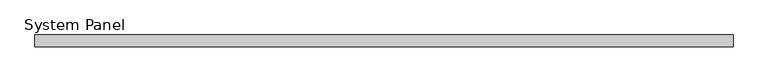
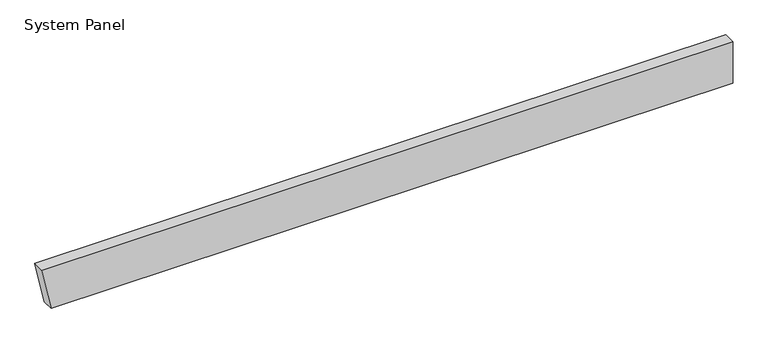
"""IFC4 building model written with IfcOpenShell, lengths in millimetres: plate geometry, System Panel : MetecnoPanel 100mm Horizontal - Plain Astro - PIR."""

from ifc_helpers import new_model, si_unit, frame, origin, place, context, project, spatial, polyline, outline, extrude, source, transform, mapped, element, save


def system_panel_ad9feff3(model_context):
    return source(origin(), model_context, "Body", "SweptSolid", [
        extrude(outline(polyline([(0.0, -2907.3970701), (0.0, 2990.0), (379.9704237, 2990.0), (379.9704237, -2990.0), (0.0, -2907.3970701)])), frame((0.0, -100.0, 0.0), z_axis=(0.0, 1.0, 0.0), x_axis=(0.0, 0.0, 1.0)), (0.0, 0.0, 1.0), 100.0),
    ])


if __name__ == "__main__":
    model = new_model("IFC4")
    model_context = context("Model", 3, world=origin())
    ifc_project = project(units=[si_unit("LENGTHUNIT", "METRE", prefix="MILLI")], contexts=[model_context])
    site = spatial("IfcSite", under=ifc_project)
    building = spatial("IfcBuilding", under=site)
    placement = place(None, origin())
    system_panel_shape = system_panel_ad9feff3(model_context)
    element("IfcPlate", 1, ObjectType="System Panel : MetecnoPanel 100mm Horizontal - Plain Astro - PIR", at=placement, inside=building, context=model_context, shape_type="MappedRepresentation", body=[
        mapped(system_panel_shape, transform((0.0, 0.0, 0.0), x_axis=(1.0, 0.0, 0.0), y_axis=(0.0, 1.0, 0.0), z_axis=(0.0, 0.0, 1.0))),
    ])
    save(model, "model.ifc")
